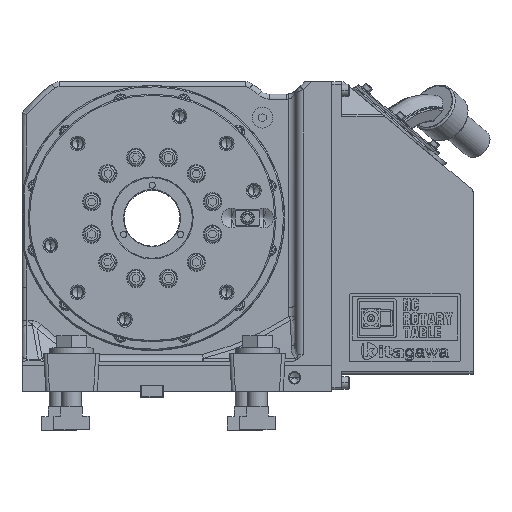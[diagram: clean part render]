
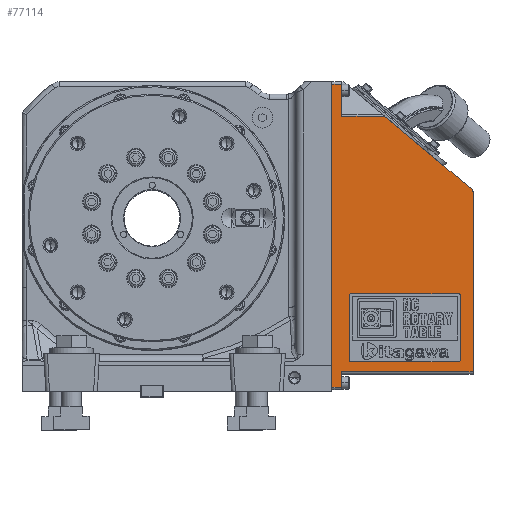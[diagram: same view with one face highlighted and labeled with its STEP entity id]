
A CAD part, top view. The second image highlights one B-rep face of the part: STEP entity #77114.
In plain terms, the highlighted planar face has unit normal (0, 0, 1).
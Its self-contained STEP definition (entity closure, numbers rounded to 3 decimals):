
#1389 = VECTOR ( 'NONE', #101923, 1000. ) ;
#2463 = DIRECTION ( 'NONE',  ( 0., 0., -1. ) ) ;
#3020 = DIRECTION ( 'NONE',  ( 1., 0., 0. ) ) ;
#4644 = DIRECTION ( 'NONE',  ( 0., -1., 0. ) ) ;
#8157 = VERTEX_POINT ( 'NONE', #92990 ) ;
#9928 = VERTEX_POINT ( 'NONE', #45021 ) ;
#13042 = ORIENTED_EDGE ( 'NONE', *, *, #91635, .T. ) ;
#13510 = VECTOR ( 'NONE', #4644, 1000. ) ;
#22972 = VERTEX_POINT ( 'NONE', #92305 ) ;
#23219 = VECTOR ( 'NONE', #87692, 1000. ) ;
#24161 = CARTESIAN_POINT ( 'NONE',  ( 113.286, 161.414, 0. ) ) ;
#25290 = CARTESIAN_POINT ( 'NONE',  ( 114., 159.881, 0. ) ) ;
#25832 = DIRECTION ( 'NONE',  ( -1., 0., 0. ) ) ;
#29454 = VERTEX_POINT ( 'NONE', #35616 ) ;
#30299 = ORIENTED_EDGE ( 'NONE', *, *, #80261, .T. ) ;
#32389 = VECTOR ( 'NONE', #74120, 1000. ) ;
#34589 = CARTESIAN_POINT ( 'NONE',  ( 8., 246.5, 0. ) ) ;
#35616 = CARTESIAN_POINT ( 'NONE',  ( 114., 14.5, 0. ) ) ;
#39033 = EDGE_CURVE ( 'NONE', #9928, #100919, #66689, .T. ) ;
#39711 = EDGE_CURVE ( 'NONE', #8157, #22972, #59592, .T. ) ;
#41300 = CARTESIAN_POINT ( 'NONE',  ( 8., 0., 0. ) ) ;
#43556 = ORIENTED_EDGE ( 'NONE', *, *, #44176, .T. ) ;
#44176 = EDGE_CURVE ( 'NONE', #22972, #85782, #59563, .T. ) ;
#44201 = ORIENTED_EDGE ( 'NONE', *, *, #98812, .T. ) ;
#44510 = CARTESIAN_POINT ( 'NONE',  ( 8., 0., 0. ) ) ;
#45021 = CARTESIAN_POINT ( 'NONE',  ( 8., 246.5, 0. ) ) ;
#45546 = PLANE ( 'NONE',  #77491 ) ;
#50055 = LINE ( 'NONE', #97611, #93394 ) ;
#50078 = ORIENTED_EDGE ( 'NONE', *, *, #39033, .F. ) ;
#50940 = DIRECTION ( 'NONE',  ( 0., 0., 1. ) ) ;
#55451 = LINE ( 'NONE', #108526, #32389 ) ;
#56486 = CARTESIAN_POINT ( 'NONE',  ( 0., 0., 0. ) ) ;
#59563 = LINE ( 'NONE', #112140, #105549 ) ;
#59592 = LINE ( 'NONE', #56486, #13510 ) ;
#60187 = EDGE_CURVE ( 'NONE', #109481, #81919, #105541, .T. ) ;
#60307 = DIRECTION ( 'NONE',  ( 1., 0., 0. ) ) ;
#62246 = VECTOR ( 'NONE', #88336, 1000. ) ;
#62988 = DIRECTION ( 'NONE',  ( -1., 0., 0. ) ) ;
#63621 = VERTEX_POINT ( 'NONE', #77439 ) ;
#64174 = LINE ( 'NONE', #34589, #84457 ) ;
#66357 = ORIENTED_EDGE ( 'NONE', *, *, #39711, .T. ) ;
#66689 = LINE ( 'NONE', #44510, #23219 ) ;
#69923 = CIRCLE ( 'NONE', #100898, 2. ) ;
#70167 = ORIENTED_EDGE ( 'NONE', *, *, #96263, .F. ) ;
#71017 = EDGE_CURVE ( 'NONE', #63621, #85782, #93447, .T. ) ;
#72204 = ORIENTED_EDGE ( 'NONE', *, *, #60187, .F. ) ;
#74120 = DIRECTION ( 'NONE',  ( 0., -1., 0. ) ) ;
#75957 = ORIENTED_EDGE ( 'NONE', *, *, #78961, .T. ) ;
#77114 = ADVANCED_FACE ( 'NONE', ( #104788 ), #45546, .F. ) ;
#77439 = CARTESIAN_POINT ( 'NONE',  ( 8., 14.5, 0. ) ) ;
#77491 = AXIS2_PLACEMENT_3D ( 'NONE', #106065, #2463, #62988 ) ;
#78961 = EDGE_CURVE ( 'NONE', #63621, #29454, #50055, .T. ) ;
#79826 = CARTESIAN_POINT ( 'NONE',  ( 8., 2., 0. ) ) ;
#80261 = EDGE_CURVE ( 'NONE', #109481, #100919, #111763, .T. ) ;
#81919 = VERTEX_POINT ( 'NONE', #24161 ) ;
#84457 = VECTOR ( 'NONE', #25832, 1000. ) ;
#85782 = VERTEX_POINT ( 'NONE', #79826 ) ;
#87692 = DIRECTION ( 'NONE',  ( 0., -1., 0. ) ) ;
#87974 = CARTESIAN_POINT ( 'NONE',  ( 114., 160.814, 0. ) ) ;
#88336 = DIRECTION ( 'NONE',  ( 0.766, -0.643, 0. ) ) ;
#91635 = EDGE_CURVE ( 'NONE', #99835, #81919, #69923, .T. ) ;
#92305 = CARTESIAN_POINT ( 'NONE',  ( 0., 2., 0. ) ) ;
#92990 = CARTESIAN_POINT ( 'NONE',  ( 0., 246.5, 0. ) ) ;
#93394 = VECTOR ( 'NONE', #3020, 1000. ) ;
#93447 = LINE ( 'NONE', #41300, #1389 ) ;
#93852 = DIRECTION ( 'NONE',  ( -1., 0., 0. ) ) ;
#96263 = EDGE_CURVE ( 'NONE', #99835, #29454, #55451, .T. ) ;
#97611 = CARTESIAN_POINT ( 'NONE',  ( 8., 14.5, 0. ) ) ;
#98812 = EDGE_CURVE ( 'NONE', #9928, #8157, #64174, .T. ) ;
#98946 = EDGE_LOOP ( 'NONE', ( #70167, #13042, #72204, #30299, #50078, #44201, #66357, #43556, #103076, #75957 ) ) ;
#99835 = VERTEX_POINT ( 'NONE', #25290 ) ;
#100898 = AXIS2_PLACEMENT_3D ( 'NONE', #102847, #50940, #111499 ) ;
#100919 = VERTEX_POINT ( 'NONE', #101640 ) ;
#101640 = CARTESIAN_POINT ( 'NONE',  ( 8., 220.672, 0. ) ) ;
#101923 = DIRECTION ( 'NONE',  ( 0., -1., 0. ) ) ;
#102847 = CARTESIAN_POINT ( 'NONE',  ( 112., 159.881, 0. ) ) ;
#103076 = ORIENTED_EDGE ( 'NONE', *, *, #71017, .F. ) ;
#104788 = FACE_OUTER_BOUND ( 'NONE', #98946, .T. ) ;
#105541 = LINE ( 'NONE', #87974, #62246 ) ;
#105549 = VECTOR ( 'NONE', #60307, 1000. ) ;
#106065 = CARTESIAN_POINT ( 'NONE',  ( 8., 0., 0. ) ) ;
#106290 = VECTOR ( 'NONE', #93852, 1000. ) ;
#108526 = CARTESIAN_POINT ( 'NONE',  ( 114., 12.5, 0. ) ) ;
#108865 = CARTESIAN_POINT ( 'NONE',  ( 42.665, 220.672, 0. ) ) ;
#109481 = VERTEX_POINT ( 'NONE', #108865 ) ;
#110883 = CARTESIAN_POINT ( 'NONE',  ( 8., 220.672, 0. ) ) ;
#111499 = DIRECTION ( 'NONE',  ( -1., 0., 0. ) ) ;
#111763 = LINE ( 'NONE', #110883, #106290 ) ;
#112140 = CARTESIAN_POINT ( 'NONE',  ( 8., 2., 0. ) ) ;
